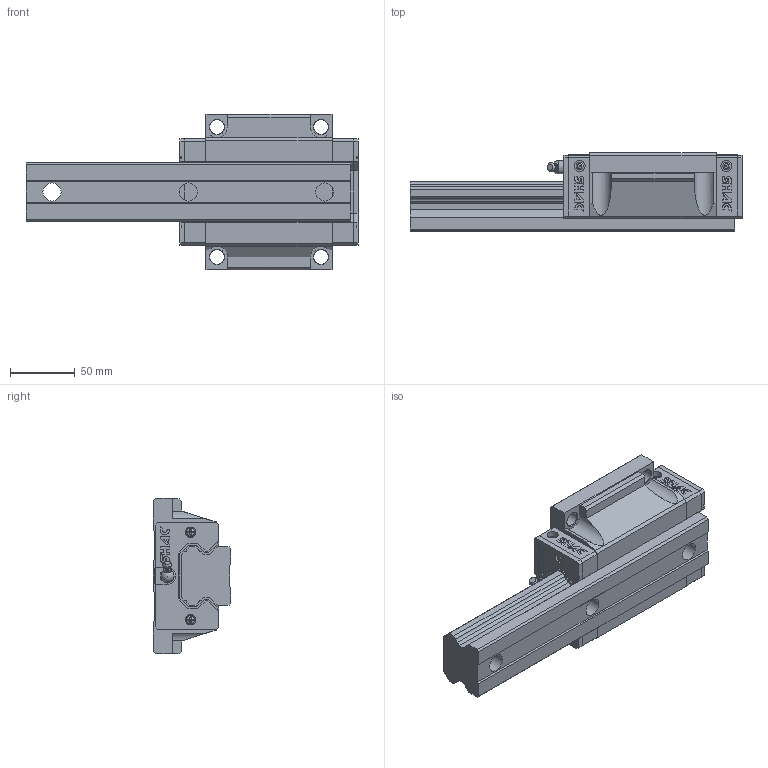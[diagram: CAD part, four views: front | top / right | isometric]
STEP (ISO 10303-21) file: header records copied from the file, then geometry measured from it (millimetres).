
FILE_DESCRIPTION( ( 'STEP AP214' ), '1' );
FILE_NAME( 'F:/品牌/SHAC 台湾鼎翰传动科技有限公司/3D滑块/GHW45CB1R250Z0C-20_20_1_1_.stp', '2025-04-21T22:48:22', ( 'License CC BY-ND 4.0' ), ( 'CADENAS' ), ' ', 'PARTsolutions', ' ' );
FILE_SCHEMA( ( 'AUTOMOTIVE_DESIGN { 1 0 10303 214 1 1 1 1 }' ) );
Length unit declared in the file: millimetre
Products named in the file (8): GHW45CB1R250Z0C-20/20(1_1); _GHR45R250C+RC-20/20(1)_RAIL; _GHW45CB_SLIDER; _GHW45CB_C; _GHW45CB_P; _GH45_SCREW; _GH45_BOLT; _GH45-_G
Assembly tree (12 placements, depth 2):
  GHW45CB1R250Z0C-20/20(1_1)
    _GHR45R250C+RC-20/20(1)_RAIL
    _GHW45CB_SLIDER
    _GHW45CB_C  x2
    _GHW45CB_P  x2
    _GH45_SCREW  x4
    _GH45_BOLT
    _GH45-_G
Bounding box: 255.5 x 60 x 120 mm (x, y, z)
Volume: 846308.5 mm3; surface area: 135979.2 mm2
Topology: 12 solids, 12 shells, 796 faces, 2110 edges, 1389 vertices
Faces by surface type: plane 646, cylinder 109, cone 26, torus 9, sphere 5, bspline 1
Full cylindrical faces by diameter (mm): 0.818 x4, 4.3 x4, 4.5 x1, 6.67 x4, 7.5 x2, 8 x4, 8.5 x4, 10 x2, 10.3 x2, 11 x4, 14 x3, 20 x3
Entity records: 18975 total; most frequent: CARTESIAN_POINT 2788, ORIENTED_EDGE 2488, DIRECTION 2414, EDGE_CURVE 1244, LINE 1020, VECTOR 1020, VERTEX_POINT 843, AXIS2_PLACEMENT_3D 697
